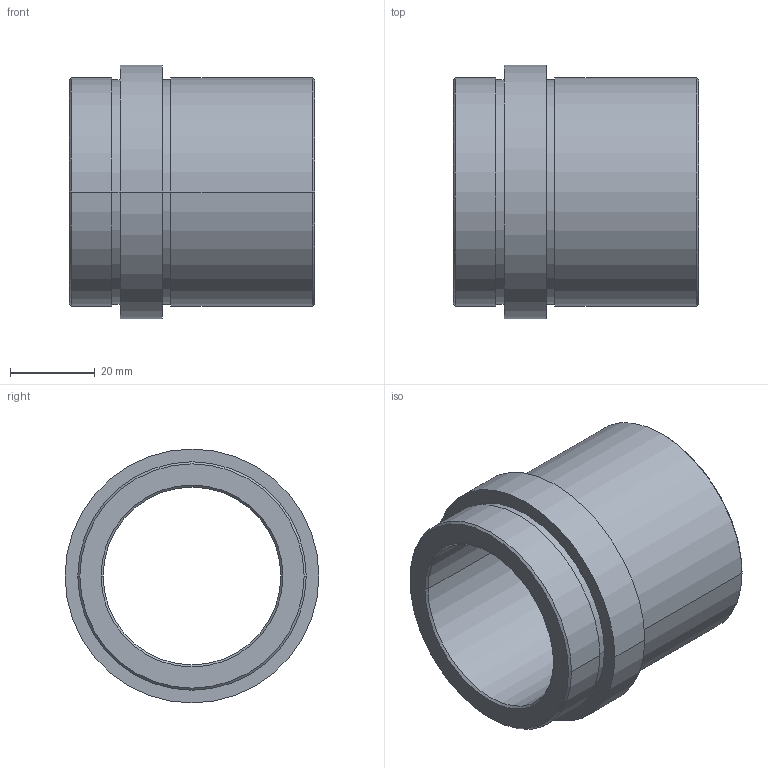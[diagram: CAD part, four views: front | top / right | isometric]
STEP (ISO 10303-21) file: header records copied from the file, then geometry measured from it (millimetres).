
FILE_DESCRIPTION( ( 'STEP AP203' ), '1' );
FILE_NAME( 'C:/Projects/D21 - 42x46.step', '2002-12-31T23:03:32', ( ' ' ), ( ' ' ), 'XStep 1.0', ' ', ' ' );
FILE_SCHEMA( ( 'CONFIG_CONTROL_DESIGN' ) );
Length unit declared in the file: metre
Products named in the file (1): 1
Bounding box: 58 x 60 x 60 mm (x, y, z)
Volume: 57437.7 mm3; surface area: 20711.8 mm2
Topology: 1 solids, 1 shells, 26 faces, 52 edges, 32 vertices
Faces by surface type: revolution 20, bspline 6
Entity records: 773 total; most frequent: CARTESIAN_POINT 169, DIRECTION 106, ORIENTED_EDGE 104, EDGE_CURVE 52, AXIS2_PLACEMENT_3D 33, EDGE_LOOP 32, VERTEX_POINT 32, CIRCLE 32
